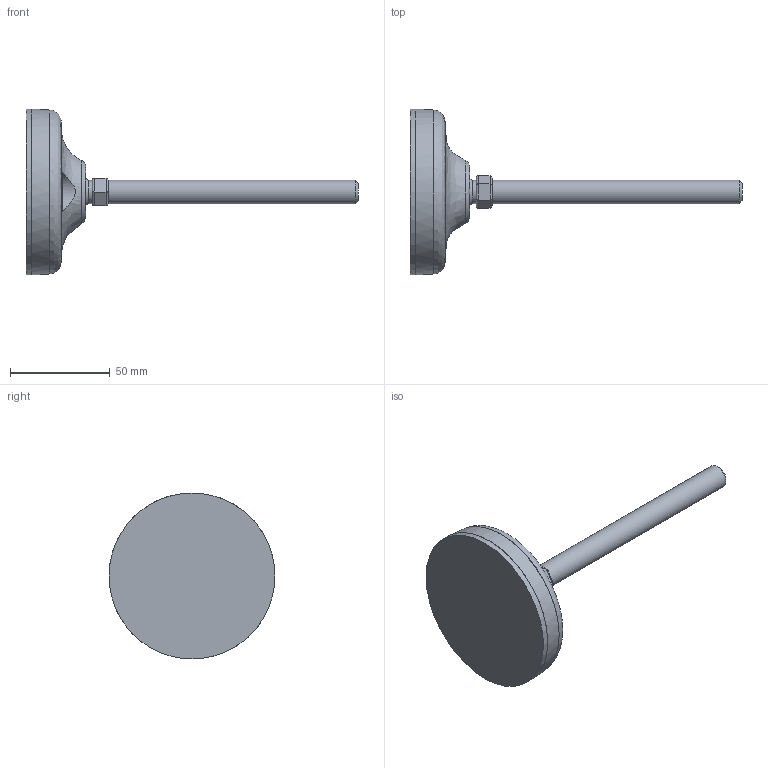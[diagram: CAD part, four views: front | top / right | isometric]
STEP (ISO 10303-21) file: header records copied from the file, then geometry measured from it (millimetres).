
FILE_DESCRIPTION(('STEP AP203'),'2;1');
FILE_NAME('10081-12.stp','2014-09-11T15:48:03',(''),(''),'2008.1.107','THINKDESIGN','');
FILE_SCHEMA(('CONFIG_CONTROL_DESIGN'));
Length unit declared in the file: millimetre
Bounding box: 166 x 83 x 83 mm (x, y, z)
Volume: 31667.8 mm3; surface area: 31814.7 mm2
Topology: 3 solids, 3 shells, 42 faces, 99 edges, 67 vertices
Faces by surface type: plane 19, cylinder 17, bspline 6
Full cylindrical faces by diameter (mm): 11.64 x1, 12 x1, 83 x1
Entity records: 1612 total; most frequent: CARTESIAN_POINT 667, DIRECTION 161, ORIENTED_EDGE 110, AXIS2_PLACEMENT_3D 62, EDGE_CURVE 55, COMPOSITE_CURVE_SEGMENT 44, VECTOR 37, LINE 37
